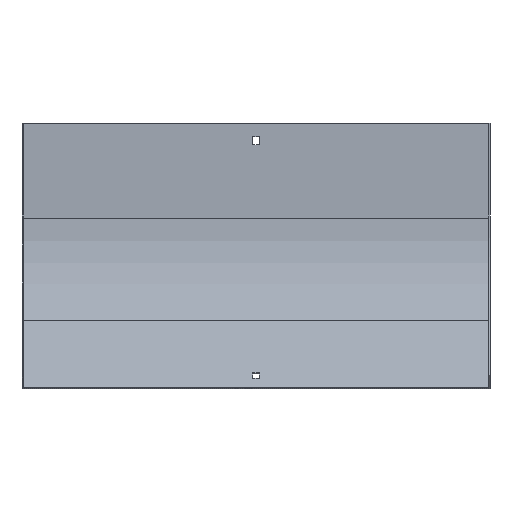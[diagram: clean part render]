
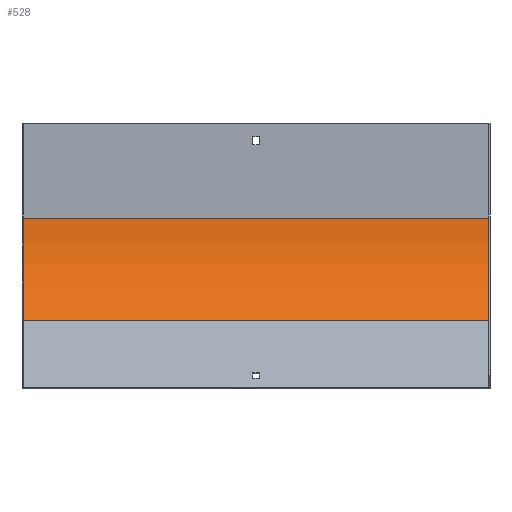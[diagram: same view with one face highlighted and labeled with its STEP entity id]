
A CAD part, front view. The second image highlights one B-rep face of the part: STEP entity #528.
In plain terms, the highlighted cylindrical face has radius 125 mm (diameter 250 mm), a partial arc.
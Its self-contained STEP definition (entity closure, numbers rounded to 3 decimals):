
#4 = ORIENTED_EDGE ( 'NONE', *, *, #447, .F. ) ;
#20 = CARTESIAN_POINT ( 'NONE',  ( 200., -37.612, -169.809 ) ) ;
#24 = DIRECTION ( 'NONE',  ( 1., 0., 0. ) ) ;
#65 = VECTOR ( 'NONE', #177, 1000. ) ;
#101 = DIRECTION ( 'NONE',  ( 0., 0., 1. ) ) ;
#117 = CYLINDRICAL_SURFACE ( 'NONE', #600, 125. ) ;
#124 = ORIENTED_EDGE ( 'NONE', *, *, #719, .F. ) ;
#151 = ORIENTED_EDGE ( 'NONE', *, *, #357, .T. ) ;
#177 = DIRECTION ( 'NONE',  ( -1., 0., 0. ) ) ;
#182 = CARTESIAN_POINT ( 'NONE',  ( 201., -37.612, -169.809 ) ) ;
#208 = DIRECTION ( 'NONE',  ( 0., 0., 1. ) ) ;
#268 = CARTESIAN_POINT ( 'NONE',  ( 201., -1., -81.421 ) ) ;
#272 = LINE ( 'NONE', #268, #370 ) ;
#357 = EDGE_CURVE ( 'NONE', #627, #503, #823, .T. ) ;
#360 = AXIS2_PLACEMENT_3D ( 'NONE', #752, #24, #101 ) ;
#370 = VECTOR ( 'NONE', #477, 1000. ) ;
#391 = EDGE_CURVE ( 'NONE', #503, #638, #272, .T. ) ;
#399 = CARTESIAN_POINT ( 'NONE',  ( -200., -1., -81.421 ) ) ;
#447 = EDGE_CURVE ( 'NONE', #627, #800, #776, .T. ) ;
#472 = DIRECTION ( 'NONE',  ( 1., 0., 0. ) ) ;
#477 = DIRECTION ( 'NONE',  ( -1., 0., 0. ) ) ;
#478 = CARTESIAN_POINT ( 'NONE',  ( -200., -37.612, -169.809 ) ) ;
#503 = VERTEX_POINT ( 'NONE', #830 ) ;
#528 = ADVANCED_FACE ( 'NONE', ( #862 ), #117, .F. ) ;
#546 = CIRCLE ( 'NONE', #360, 125. ) ;
#547 = CARTESIAN_POINT ( 'NONE',  ( 200., -126., -81.421 ) ) ;
#580 = CARTESIAN_POINT ( 'NONE',  ( 201., -126., -81.421 ) ) ;
#585 = ORIENTED_EDGE ( 'NONE', *, *, #391, .T. ) ;
#600 = AXIS2_PLACEMENT_3D ( 'NONE', #580, #725, #845 ) ;
#627 = VERTEX_POINT ( 'NONE', #20 ) ;
#638 = VERTEX_POINT ( 'NONE', #399 ) ;
#719 = EDGE_CURVE ( 'NONE', #800, #638, #546, .T. ) ;
#725 = DIRECTION ( 'NONE',  ( -1., 0., 0. ) ) ;
#752 = CARTESIAN_POINT ( 'NONE',  ( -200., -126., -81.421 ) ) ;
#775 = AXIS2_PLACEMENT_3D ( 'NONE', #547, #472, #208 ) ;
#776 = LINE ( 'NONE', #182, #65 ) ;
#793 = EDGE_LOOP ( 'NONE', ( #124, #4, #151, #585 ) ) ;
#800 = VERTEX_POINT ( 'NONE', #478 ) ;
#823 = CIRCLE ( 'NONE', #775, 125. ) ;
#830 = CARTESIAN_POINT ( 'NONE',  ( 200., -1., -81.421 ) ) ;
#845 = DIRECTION ( 'NONE',  ( 0., 0., 1. ) ) ;
#862 = FACE_OUTER_BOUND ( 'NONE', #793, .T. ) ;
